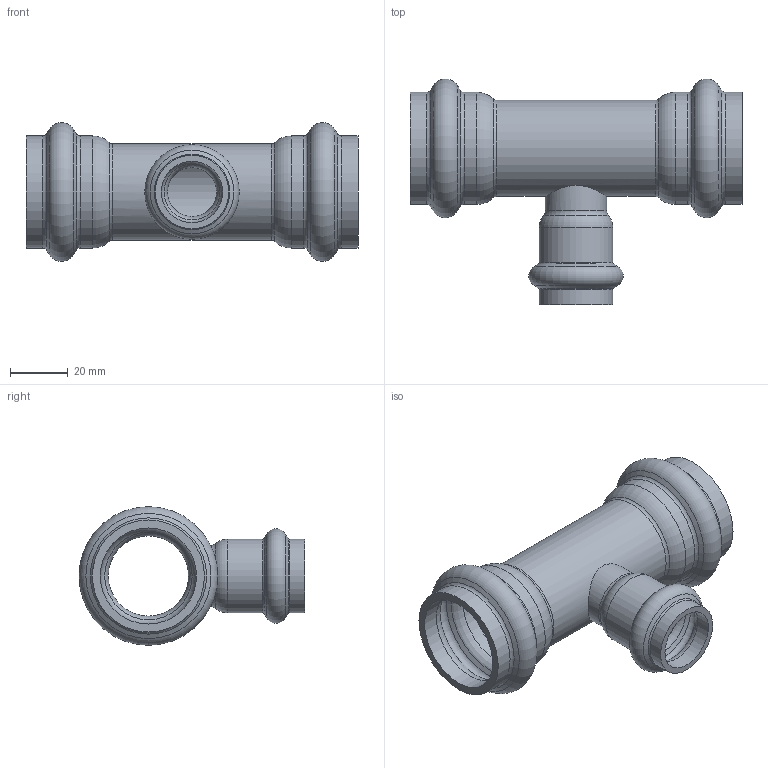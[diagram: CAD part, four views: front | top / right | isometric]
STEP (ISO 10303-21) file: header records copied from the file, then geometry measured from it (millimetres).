
FILE_DESCRIPTION(/* description */ ('VIC TEE RED. BRANCH STYLE P593 (P X P X P)','CAx-IF Rec.Pracs.---Representation and Presentation of Product Manufacturing Information (PMI)---4.0---2014-10-13'),/* implementation_level */ '2;1');
FILE_NAME(/* name */ 'C:\Users\Vjadhav\AppData\Roaming\Autodesk\ApplicationPlugins\Back Up\Victaulic_SS-Vic-Press-TP 304_Tee Reducing_Style P593 (VP)\Victaulic_SS-Vic-Press-TP 304_Tee Reducing_Style P593 (VP)_01.0x0.50 (25x15).stp',/* time_stamp */ '2020-08-12T18:32:23+05:00',/* author */ ('cgray'),/* organization */ ('Victaulic'),/* preprocessor_version */ 'ST-DEVELOPER v17.2',/* originating_system */ 'Autodesk Inventor 2019',/* authorisation */ '');
FILE_SCHEMA (('AP242_MANAGED_MODEL_BASED_3D_ENGINEERING_MIM_LF { 1 0 10303 442 1 1 4 }'));
Length unit declared in the file: inch
Products named in the file (1): P593-01.0x0.5
Bounding box: 115.32 x 78.44 x 48.16 mm (x, y, z)
Volume: 43608.8 mm3; surface area: 33832.9 mm2
Topology: 1 solids, 1 shells, 61 faces, 220 edges, 160 vertices
Faces by surface type: torus 30, cylinder 16, cone 12, plane 3
Full cylindrical faces by diameter (mm): 17.12 x1, 21.336 x3, 25.552 x2, 27.864 x1, 33.401 x5, 38.938 x4
Entity records: 2801 total; most frequent: DIRECTION 544, CARTESIAN_POINT 539, ORIENTED_EDGE 440, AXIS2_PLACEMENT_3D 257, EDGE_CURVE 220, CIRCLE 182, VERTEX_POINT 160, EDGE_LOOP 64
